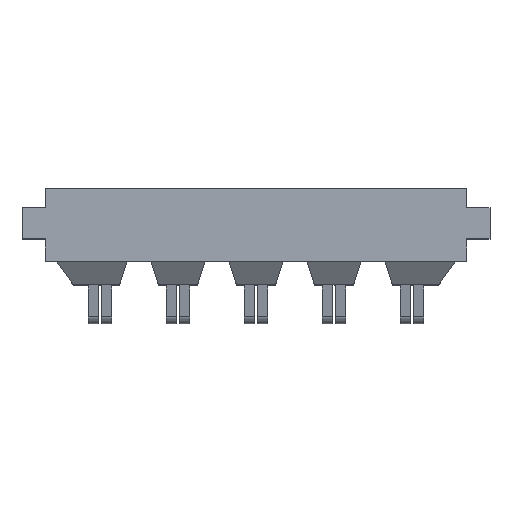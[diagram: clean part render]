
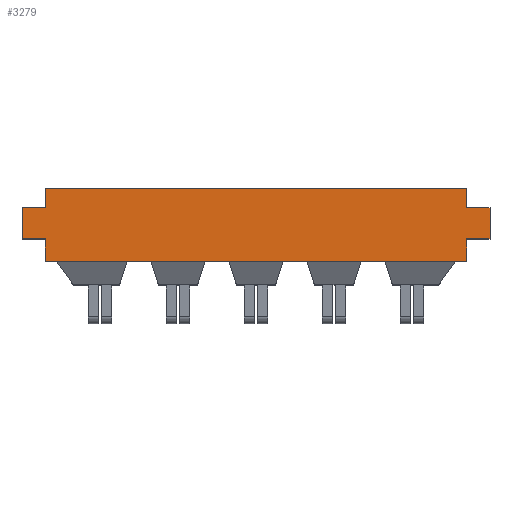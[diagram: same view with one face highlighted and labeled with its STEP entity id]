
A CAD part, top view. The second image highlights one B-rep face of the part: STEP entity #3279.
In plain terms, the highlighted planar face has unit normal (0, 0, 1).
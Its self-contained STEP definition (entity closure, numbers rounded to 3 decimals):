
#3 = AXIS2_PLACEMENT_3D ( 'NONE', #818, #3006, #5354 ) ;
#8 = VECTOR ( 'NONE', #520, 1000. ) ;
#350 = FACE_OUTER_BOUND ( 'NONE', #2588, .T. ) ;
#467 = EDGE_CURVE ( 'NONE', #2228, #4958, #4558, .T. ) ;
#520 = DIRECTION ( 'NONE',  ( -1., 0., 0. ) ) ;
#647 = LINE ( 'NONE', #1449, #1303 ) ;
#661 = ORIENTED_EDGE ( 'NONE', *, *, #5744, .F. ) ;
#789 = LINE ( 'NONE', #3916, #3158 ) ;
#811 = CARTESIAN_POINT ( 'NONE',  ( 108.966, 11.434, -48.092 ) ) ;
#818 = CARTESIAN_POINT ( 'NONE',  ( 110.466, 10.434, -48.092 ) ) ;
#928 = DIRECTION ( 'NONE',  ( 0., -1., 0. ) ) ;
#952 = VECTOR ( 'NONE', #928, 1000. ) ;
#966 = CARTESIAN_POINT ( 'NONE',  ( 87.97, 13.434, -48.092 ) ) ;
#1070 = VECTOR ( 'NONE', #3751, 1000. ) ;
#1191 = CARTESIAN_POINT ( 'NONE',  ( 108.966, 12.639, -48.092 ) ) ;
#1199 = LINE ( 'NONE', #3522, #4370 ) ;
#1303 = VECTOR ( 'NONE', #1503, 1000. ) ;
#1342 = EDGE_CURVE ( 'NONE', #4958, #2086, #647, .T. ) ;
#1371 = ORIENTED_EDGE ( 'NONE', *, *, #467, .F. ) ;
#1386 = LINE ( 'NONE', #966, #2321 ) ;
#1449 = CARTESIAN_POINT ( 'NONE',  ( 137.466, 12.639, -48.092 ) ) ;
#1503 = DIRECTION ( 'NONE',  ( 0., -1., 0. ) ) ;
#1509 = CARTESIAN_POINT ( 'NONE',  ( 82.97, 9.984, -48.092 ) ) ;
#1547 = ORIENTED_EDGE ( 'NONE', *, *, #3806, .F. ) ;
#1679 = VECTOR ( 'NONE', #3592, 1000. ) ;
#1810 = VERTEX_POINT ( 'NONE', #811 ) ;
#1850 = CARTESIAN_POINT ( 'NONE',  ( 137.466, 12.639, -48.092 ) ) ;
#1855 = CARTESIAN_POINT ( 'NONE',  ( 82.97, 14.684, -48.092 ) ) ;
#1876 = CARTESIAN_POINT ( 'NONE',  ( 137.466, 13.434, -48.092 ) ) ;
#1966 = VERTEX_POINT ( 'NONE', #5803 ) ;
#2086 = VERTEX_POINT ( 'NONE', #5600 ) ;
#2131 = VERTEX_POINT ( 'NONE', #4606 ) ;
#2134 = CARTESIAN_POINT ( 'NONE',  ( 110.466, 14.684, -48.092 ) ) ;
#2177 = PLANE ( 'NONE',  #3 ) ;
#2210 = CARTESIAN_POINT ( 'NONE',  ( 137.466, 11.434, -48.092 ) ) ;
#2228 = VERTEX_POINT ( 'NONE', #2583 ) ;
#2235 = LINE ( 'NONE', #2427, #8 ) ;
#2321 = VECTOR ( 'NONE', #3739, 1000. ) ;
#2331 = DIRECTION ( 'NONE',  ( -1., 0., 0. ) ) ;
#2427 = CARTESIAN_POINT ( 'NONE',  ( 82.97, 11.434, -48.092 ) ) ;
#2448 = VERTEX_POINT ( 'NONE', #3659 ) ;
#2583 = CARTESIAN_POINT ( 'NONE',  ( 138.966, 11.434, -48.092 ) ) ;
#2588 = EDGE_LOOP ( 'NONE', ( #4762, #3578, #1371, #2612, #2774, #4903, #3392, #4615, #3108, #661, #1547, #3399 ) ) ;
#2612 = ORIENTED_EDGE ( 'NONE', *, *, #4274, .F. ) ;
#2678 = EDGE_CURVE ( 'NONE', #4845, #1966, #4532, .T. ) ;
#2711 = EDGE_CURVE ( 'NONE', #3779, #5714, #4096, .T. ) ;
#2741 = CARTESIAN_POINT ( 'NONE',  ( 110.466, 12.639, -48.092 ) ) ;
#2774 = ORIENTED_EDGE ( 'NONE', *, *, #4696, .F. ) ;
#2910 = CARTESIAN_POINT ( 'NONE',  ( 110.466, 9.984, -48.092 ) ) ;
#3006 = DIRECTION ( 'NONE',  ( 0., 0., 1. ) ) ;
#3108 = ORIENTED_EDGE ( 'NONE', *, *, #4937, .F. ) ;
#3158 = VECTOR ( 'NONE', #3999, 1000. ) ;
#3279 = ADVANCED_FACE ( 'NONE', ( #350 ), #2177, .T. ) ;
#3392 = ORIENTED_EDGE ( 'NONE', *, *, #2711, .T. ) ;
#3399 = ORIENTED_EDGE ( 'NONE', *, *, #2678, .F. ) ;
#3522 = CARTESIAN_POINT ( 'NONE',  ( 110.466, 12.639, -48.092 ) ) ;
#3527 = CARTESIAN_POINT ( 'NONE',  ( 137.466, 14.684, -48.092 ) ) ;
#3578 = ORIENTED_EDGE ( 'NONE', *, *, #1342, .F. ) ;
#3592 = DIRECTION ( 'NONE',  ( 0., 1., 0. ) ) ;
#3659 = CARTESIAN_POINT ( 'NONE',  ( 108.966, 13.434, -48.092 ) ) ;
#3693 = VECTOR ( 'NONE', #5001, 1000. ) ;
#3739 = DIRECTION ( 'NONE',  ( 1., 0., 0. ) ) ;
#3751 = DIRECTION ( 'NONE',  ( -1., 0., 0. ) ) ;
#3777 = LINE ( 'NONE', #1850, #952 ) ;
#3779 = VERTEX_POINT ( 'NONE', #3527 ) ;
#3784 = VECTOR ( 'NONE', #2331, 1000. ) ;
#3806 = EDGE_CURVE ( 'NONE', #1966, #1810, #2235, .T. ) ;
#3870 = EDGE_CURVE ( 'NONE', #3779, #5098, #3777, .T. ) ;
#3916 = CARTESIAN_POINT ( 'NONE',  ( 82.97, 13.434, -48.092 ) ) ;
#3999 = DIRECTION ( 'NONE',  ( 1., 0., 0. ) ) ;
#4096 = LINE ( 'NONE', #1855, #3784 ) ;
#4211 = CARTESIAN_POINT ( 'NONE',  ( 138.966, 13.434, -48.092 ) ) ;
#4254 = VERTEX_POINT ( 'NONE', #4211 ) ;
#4274 = EDGE_CURVE ( 'NONE', #4254, #2228, #5528, .T. ) ;
#4281 = LINE ( 'NONE', #1509, #1070 ) ;
#4340 = LINE ( 'NONE', #1191, #1679 ) ;
#4370 = VECTOR ( 'NONE', #5317, 1000. ) ;
#4472 = DIRECTION ( 'NONE',  ( -1., 0., 0. ) ) ;
#4532 = LINE ( 'NONE', #2741, #3693 ) ;
#4558 = LINE ( 'NONE', #5463, #5207 ) ;
#4606 = CARTESIAN_POINT ( 'NONE',  ( 110.466, 13.434, -48.092 ) ) ;
#4615 = ORIENTED_EDGE ( 'NONE', *, *, #5400, .F. ) ;
#4696 = EDGE_CURVE ( 'NONE', #5098, #4254, #1386, .T. ) ;
#4762 = ORIENTED_EDGE ( 'NONE', *, *, #5615, .F. ) ;
#4845 = VERTEX_POINT ( 'NONE', #2910 ) ;
#4903 = ORIENTED_EDGE ( 'NONE', *, *, #3870, .F. ) ;
#4937 = EDGE_CURVE ( 'NONE', #2448, #2131, #789, .T. ) ;
#4958 = VERTEX_POINT ( 'NONE', #2210 ) ;
#4980 = CARTESIAN_POINT ( 'NONE',  ( 138.966, 12.639, -48.092 ) ) ;
#5001 = DIRECTION ( 'NONE',  ( 0., 1., 0. ) ) ;
#5040 = DIRECTION ( 'NONE',  ( 0., -1., 0. ) ) ;
#5098 = VERTEX_POINT ( 'NONE', #1876 ) ;
#5207 = VECTOR ( 'NONE', #4472, 1000. ) ;
#5287 = VECTOR ( 'NONE', #5040, 1000. ) ;
#5317 = DIRECTION ( 'NONE',  ( 0., 1., 0. ) ) ;
#5354 = DIRECTION ( 'NONE',  ( 1., 0., 0. ) ) ;
#5400 = EDGE_CURVE ( 'NONE', #2131, #5714, #1199, .T. ) ;
#5463 = CARTESIAN_POINT ( 'NONE',  ( 87.97, 11.434, -48.092 ) ) ;
#5528 = LINE ( 'NONE', #4980, #5287 ) ;
#5600 = CARTESIAN_POINT ( 'NONE',  ( 137.466, 9.984, -48.092 ) ) ;
#5615 = EDGE_CURVE ( 'NONE', #2086, #4845, #4281, .T. ) ;
#5714 = VERTEX_POINT ( 'NONE', #2134 ) ;
#5744 = EDGE_CURVE ( 'NONE', #1810, #2448, #4340, .T. ) ;
#5803 = CARTESIAN_POINT ( 'NONE',  ( 110.466, 11.434, -48.092 ) ) ;
